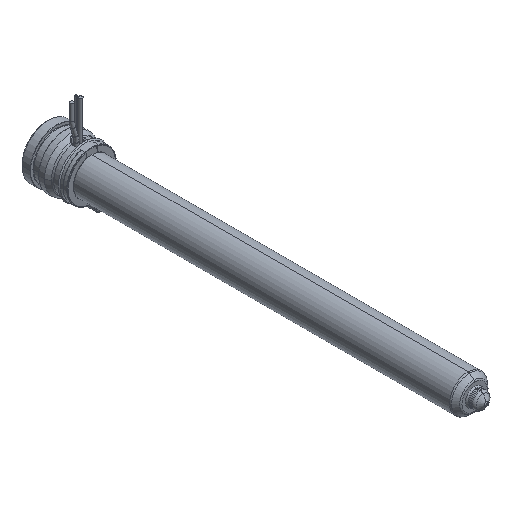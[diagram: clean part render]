
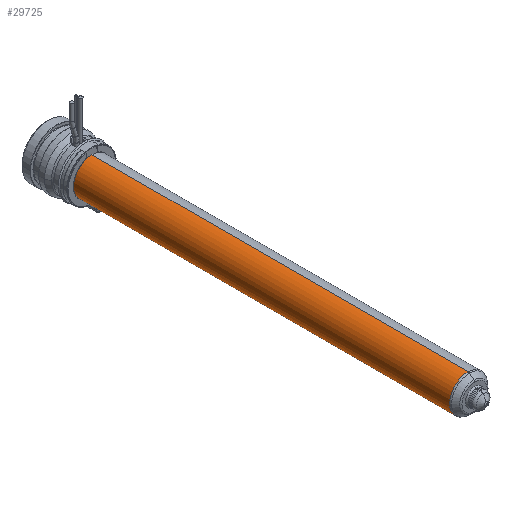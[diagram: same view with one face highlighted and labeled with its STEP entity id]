
A CAD part, isometric view. The second image highlights one B-rep face of the part: STEP entity #29725.
In plain terms, the highlighted cylindrical face has radius 9 mm (diameter 18 mm), a partial arc.
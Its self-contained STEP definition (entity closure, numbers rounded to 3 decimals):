
#29180=CARTESIAN_POINT('',(0.,-205.836,0.));
#29181=DIRECTION('',(0.,-1.,0.));
#29182=DIRECTION('',(0.,0.,1.));
#29183=AXIS2_PLACEMENT_3D('',#29180,#29181,#29182);
#29188=CARTESIAN_POINT('',(0.,-22.,0.));
#29189=DIRECTION('',(0.,-1.,0.));
#29190=DIRECTION('',(0.,0.,1.));
#29191=AXIS2_PLACEMENT_3D('',#29188,#29189,#29190);
#29196=DIRECTION('',(0.,-1.,0.));
#29197=VECTOR('',#29196,183.836);
#29198=CARTESIAN_POINT('',(0.,-22.,9.));
#29199=LINE('',#29198,#29197);
#29211=DIRECTION('',(0.,-1.,0.));
#29212=VECTOR('',#29211,183.836);
#29213=CARTESIAN_POINT('',(0.,-22.,-9.));
#29214=LINE('',#29213,#29212);
#29406=CARTESIAN_POINT('',(0.,-22.,9.));
#29407=CARTESIAN_POINT('',(0.,-205.836,9.));
#29408=VERTEX_POINT('',#29406);
#29409=VERTEX_POINT('',#29407);
#29428=CARTESIAN_POINT('',(0.,-22.,-9.));
#29429=CARTESIAN_POINT('',(0.,-205.836,-9.));
#29430=VERTEX_POINT('',#29428);
#29431=VERTEX_POINT('',#29429);
#29711=CARTESIAN_POINT('',(0.,-8.125,0.));
#29712=DIRECTION('',(0.,-1.,0.));
#29713=DIRECTION('',(0.,0.,1.));
#29714=AXIS2_PLACEMENT_3D('',#29711,#29712,#29713);
#29715=CYLINDRICAL_SURFACE('',#29714,9.);
#29717=ORIENTED_EDGE('',*,*,#29716,.T.);
#29718=ORIENTED_EDGE('',*,*,#29706,.T.);
#29720=ORIENTED_EDGE('',*,*,#29719,.F.);
#29722=ORIENTED_EDGE('',*,*,#29721,.F.);
#29723=EDGE_LOOP('',(#29717,#29718,#29720,#29722));
#29724=FACE_OUTER_BOUND('',#29723,.F.);
#29725=ADVANCED_FACE('',(#29724),#29715,.T.);
#29184=CIRCLE('',#29183,9.);
#29192=CIRCLE('',#29191,9.);
#29706=EDGE_CURVE('',#29409,#29431,#29184,.T.);
#29716=EDGE_CURVE('',#29408,#29409,#29199,.T.);
#29719=EDGE_CURVE('',#29430,#29431,#29214,.T.);
#29721=EDGE_CURVE('',#29408,#29430,#29192,.T.);
